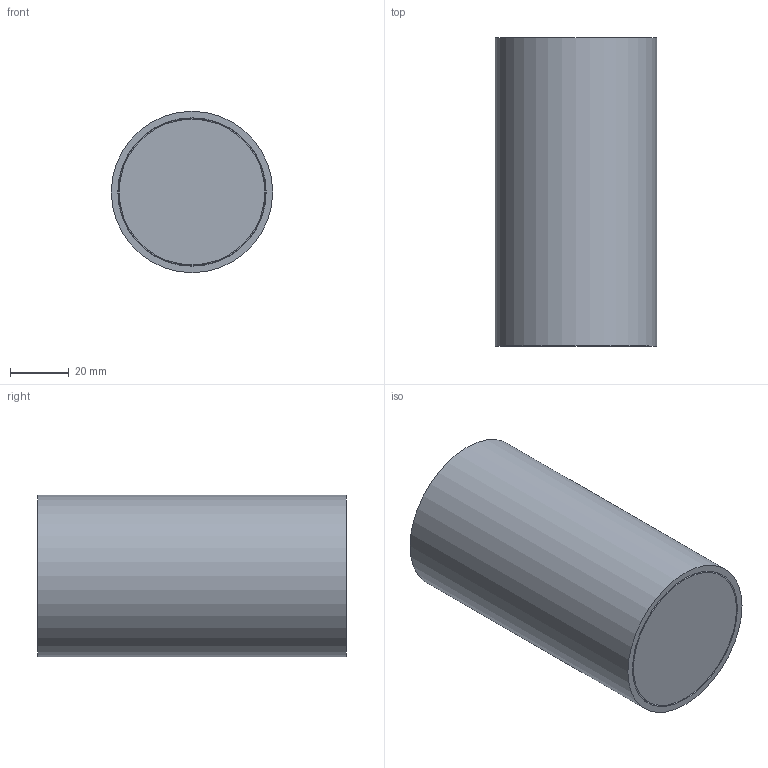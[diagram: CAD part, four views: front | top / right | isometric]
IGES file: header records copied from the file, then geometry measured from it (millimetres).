
Start section: SolidWorks IGES file using analytic representation for surfaces
Global section: file name: X:\PRODUKT\Modele 3D_WWW\_KOLEKCJE WWW\EDESA-LED\9110\EDESA-S-9110.IGS; native system: SolidWorks 2021; preprocessor: SolidWorks 2021; author: gabriela.tworek; date: 220926.125159; units: millimetre
Bounding box: 55 x 105 x 55 mm (x, y, z)
Surface area: 51687.1 mm2 (no closed solid volume)
Topology: 0 solids, 0 shells, 17 faces, 36 edges, 28 vertices
Faces by surface type: bspline 9, revolution 8
